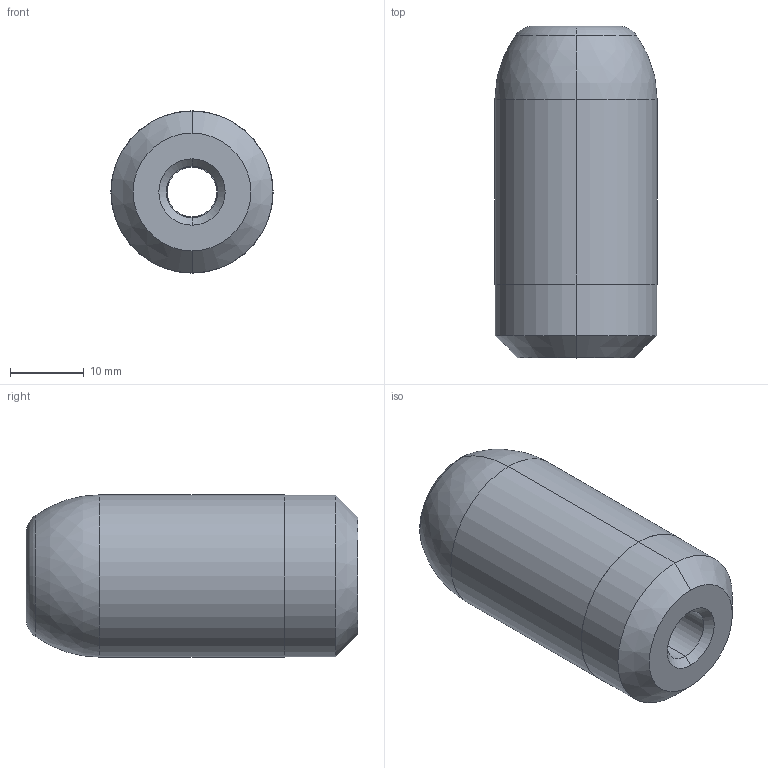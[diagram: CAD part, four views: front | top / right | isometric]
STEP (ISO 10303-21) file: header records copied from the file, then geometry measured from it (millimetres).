
FILE_DESCRIPTION(('CATIA V5 STEP Exchange'),'2;1');
FILE_NAME('C:\Users\Utente\Desktop\IO LAVORO\3D X SITO CF\X SITO\700\700-22-45.stp','2020-11-29T12:14:24+00:00',('none'),('none'),'CATIA Version 5 Release 20 GA (IN-10)','CATIA V5 STEP AP203','none');
FILE_SCHEMA(('CONFIG_CONTROL_DESIGN'));
Length unit declared in the file: millimetre
Products named in the file (1): 700-22-45
Bounding box: 22 x 45 x 22 mm (x, y, z)
Volume: 14335.1 mm3; surface area: 4367.3 mm2
Topology: 1 solids, 1 shells, 22 faces, 44 edges, 26 vertices
Faces by surface type: cylinder 8, cone 6, plane 4, torus 2, revolution 2
Entity records: 687 total; most frequent: CARTESIAN_POINT 192, ORIENTED_EDGE 88, DIRECTION 83, AXIS2_PLACEMENT_3D 48, EDGE_CURVE 44, CIRCLE 27, EDGE_LOOP 26, VERTEX_POINT 26
